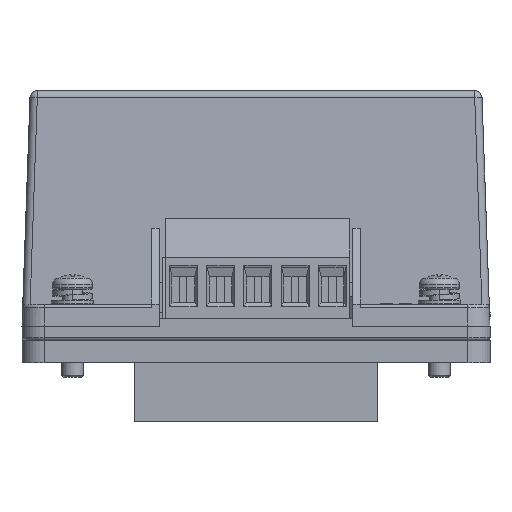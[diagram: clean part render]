
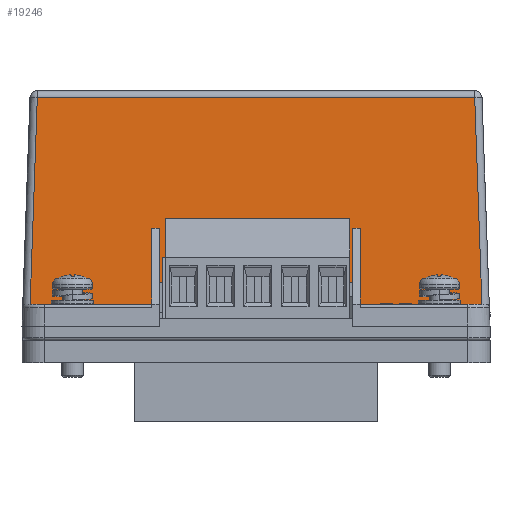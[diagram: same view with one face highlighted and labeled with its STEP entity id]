
A CAD part, front view. The second image highlights one B-rep face of the part: STEP entity #19246.
In plain terms, the highlighted planar face has unit normal (0, -0.999, 0.035) as drawn and (0.999, 0, 0.035) by its records, which use the part's own axes.
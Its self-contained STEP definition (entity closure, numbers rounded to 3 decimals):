
#10346=CARTESIAN_POINT('',(44.968,-29.813,31.135));
#10347=VERTEX_POINT('',#10346);
#10398=CARTESIAN_POINT('',(44.968,29.813,31.135));
#10399=VERTEX_POINT('',#10398);
#10414=CARTESIAN_POINT('',(44.968,-29.813,31.135));
#10415=DIRECTION('',(0.0,1.0,0.0));
#10416=VECTOR('',#10415,59.627);
#10417=LINE('',#10414,#10416);
#10418=EDGE_CURVE('',#10347,#10399,#10417,.T.);
#13025=CARTESIAN_POINT('',(45.95,30.796,3.));
#13026=VERTEX_POINT('',#13025);
#13034=CARTESIAN_POINT('',(45.95,14.2,3.));
#13035=VERTEX_POINT('',#13034);
#13036=CARTESIAN_POINT('',(45.95,30.796,3.));
#13037=DIRECTION('',(0.0,-1.0,0.0));
#13038=VECTOR('',#13037,16.596);
#13039=LINE('',#13036,#13038);
#13040=EDGE_CURVE('',#13026,#13035,#13039,.T.);
#15107=CARTESIAN_POINT('',(45.95,-30.796,3.));
#15108=VERTEX_POINT('',#15107);
#15116=CARTESIAN_POINT('',(45.95,-30.796,3.));
#15117=DIRECTION('',(-0.035,0.035,0.999));
#15118=VECTOR('',#15117,28.169);
#15119=LINE('',#15116,#15118);
#15120=EDGE_CURVE('',#15108,#10347,#15119,.T.);
#15137=CARTESIAN_POINT('',(44.968,29.813,31.135));
#15138=DIRECTION('',(0.035,0.035,-0.999));
#15139=VECTOR('',#15138,28.169);
#15140=LINE('',#15137,#15139);
#15141=EDGE_CURVE('',#10399,#13026,#15140,.T.);
#17583=CARTESIAN_POINT('',(45.59,13.2,13.305));
#17584=VERTEX_POINT('',#17583);
#17591=CARTESIAN_POINT('',(45.845,13.2,6.));
#17592=VERTEX_POINT('',#17591);
#17593=CARTESIAN_POINT('',(45.845,13.2,6.));
#17594=DIRECTION('',(-0.035,0.0,0.999));
#17595=VECTOR('',#17594,7.31);
#17596=LINE('',#17593,#17595);
#17597=EDGE_CURVE('',#17592,#17584,#17596,.T.);
#19064=CARTESIAN_POINT('',(45.845,-13.2,6.));
#19065=VERTEX_POINT('',#19064);
#19066=CARTESIAN_POINT('',(45.845,-13.2,6.));
#19067=DIRECTION('',(0.0,1.0,0.0));
#19068=VECTOR('',#19067,26.4);
#19069=LINE('',#19066,#19068);
#19070=EDGE_CURVE('',#19065,#17592,#19069,.T.);
#19175=CARTESIAN_POINT('',(45.59,-13.2,13.305));
#19176=VERTEX_POINT('',#19175);
#19177=CARTESIAN_POINT('',(45.59,-13.2,13.305));
#19178=DIRECTION('',(0.035,0.0,-0.999));
#19179=VECTOR('',#19178,7.31);
#19180=LINE('',#19177,#19179);
#19181=EDGE_CURVE('',#19176,#19065,#19180,.T.);
#19196=CARTESIAN_POINT('',(45.95,31.9,3.));
#19197=DIRECTION('',(0.999,0.,0.035));
#19198=DIRECTION('',(0.035,0.0,-0.999));
#19199=AXIS2_PLACEMENT_3D('',#19196,#19197,#19198);
#19200=PLANE('',#19199);
#19201=ORIENTED_EDGE('',*,*,#15120,.F.);
#19202=CARTESIAN_POINT('',(45.95,-14.2,3.));
#19203=VERTEX_POINT('',#19202);
#19204=CARTESIAN_POINT('',(45.95,-14.2,3.));
#19205=DIRECTION('',(0.0,-1.0,0.0));
#19206=VECTOR('',#19205,16.596);
#19207=LINE('',#19204,#19206);
#19208=EDGE_CURVE('',#19203,#15108,#19207,.T.);
#19209=ORIENTED_EDGE('',*,*,#19208,.F.);
#19210=CARTESIAN_POINT('',(45.59,-14.2,13.305));
#19211=VERTEX_POINT('',#19210);
#19212=CARTESIAN_POINT('',(45.95,-14.2,3.));
#19213=DIRECTION('',(-0.035,0.0,0.999));
#19214=VECTOR('',#19213,10.311);
#19215=LINE('',#19212,#19214);
#19216=EDGE_CURVE('',#19203,#19211,#19215,.T.);
#19217=ORIENTED_EDGE('',*,*,#19216,.T.);
#19218=CARTESIAN_POINT('',(45.59,-14.2,13.305));
#19219=DIRECTION('',(0.0,1.0,0.0));
#19220=VECTOR('',#19219,1.);
#19221=LINE('',#19218,#19220);
#19222=EDGE_CURVE('',#19211,#19176,#19221,.T.);
#19223=ORIENTED_EDGE('',*,*,#19222,.T.);
#19224=ORIENTED_EDGE('',*,*,#19181,.T.);
#19225=ORIENTED_EDGE('',*,*,#19070,.T.);
#19226=ORIENTED_EDGE('',*,*,#17597,.T.);
#19227=CARTESIAN_POINT('',(45.59,14.2,13.305));
#19228=VERTEX_POINT('',#19227);
#19229=CARTESIAN_POINT('',(45.59,13.2,13.305));
#19230=DIRECTION('',(0.0,1.0,0.0));
#19231=VECTOR('',#19230,1.);
#19232=LINE('',#19229,#19231);
#19233=EDGE_CURVE('',#17584,#19228,#19232,.T.);
#19234=ORIENTED_EDGE('',*,*,#19233,.T.);
#19235=CARTESIAN_POINT('',(45.59,14.2,13.305));
#19236=DIRECTION('',(0.035,0.0,-0.999));
#19237=VECTOR('',#19236,10.311);
#19238=LINE('',#19235,#19237);
#19239=EDGE_CURVE('',#19228,#13035,#19238,.T.);
#19240=ORIENTED_EDGE('',*,*,#19239,.T.);
#19241=ORIENTED_EDGE('',*,*,#13040,.F.);
#19242=ORIENTED_EDGE('',*,*,#15141,.F.);
#19243=ORIENTED_EDGE('',*,*,#10418,.F.);
#19244=EDGE_LOOP('',(#19201,#19209,#19217,#19223,#19224,#19225,#19226,#19234,#19240,#19241,#19242,#19243));
#19245=FACE_OUTER_BOUND('',#19244,.T.);
#19246=ADVANCED_FACE('',(#19245),#19200,.T.);
